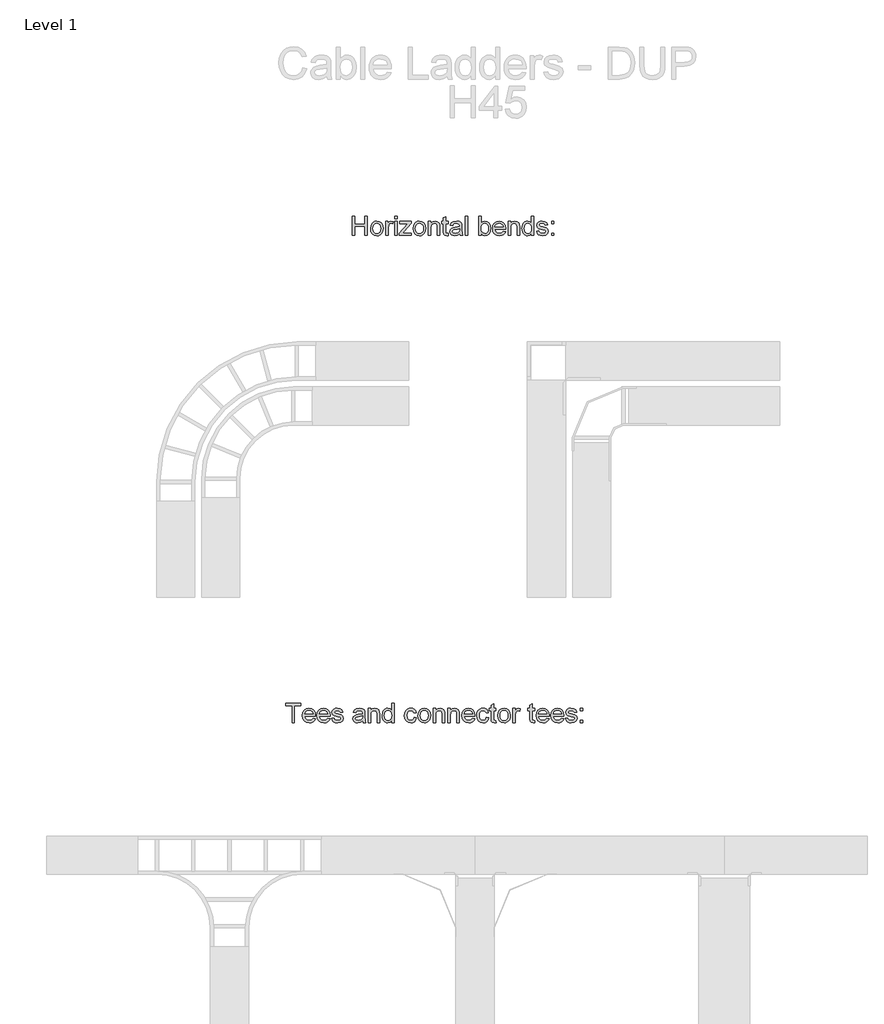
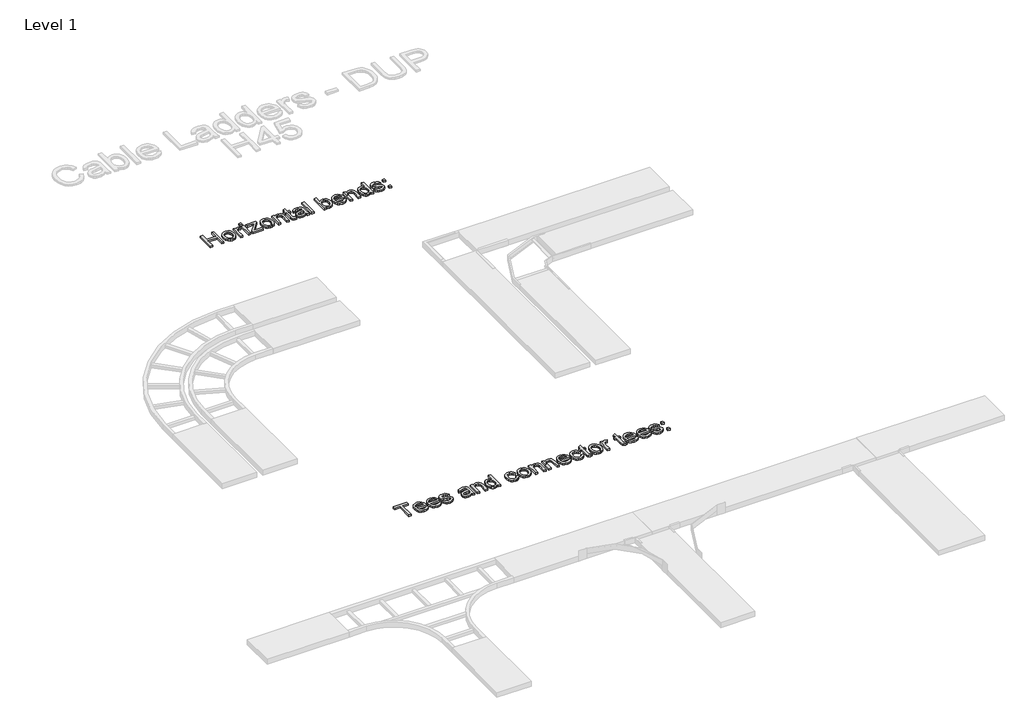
# One storey, part 60 of 106: 2 proxies.
"""IFC4 building model written with IfcOpenShell, lengths in millimetres."""

from ifc_helpers import new_model, si_unit, origin, origin_with_axes, place, context, project, spatial, polyline, outline, extrude, element, save

model = new_model("IFC4")

# Units and contexts
model_context = context("Model", 3, world=origin())
ifc_project = project(units=[si_unit("LENGTHUNIT", "METRE", prefix="MILLI")], contexts=[model_context])

# Site, building, storey
site = spatial("IfcSite", under=ifc_project)
building = spatial("IfcBuilding", under=site)
storey = spatial("IfcBuildingStorey", under=building, Name="Level 1", Elevation=0.0)

# Proxies
placement = place(None, origin())
element("IfcBuildingElementProxy", 1, Name="150mm Arial 2", ObjectType="150mm Arial 2", at=placement, inside=storey, context=model_context, shape_type="SweptSolid", body=[
    extrude(outline(polyline([(42265.8833156, 38674.2713912), (42265.8833156, 38824.9558564), (42284.7188737, 38824.9558564), (42284.7188737, 38763.7402924), (42364.7699959, 38763.7402924), (42364.7699959, 38824.9558564), (42383.605554, 38824.9558564), (42383.605554, 38674.2713912), (42364.7699959, 38674.2713912), (42364.7699959, 38744.9047343), (42284.7188737, 38744.9047343), (42284.7188737, 38674.2713912), (42265.8833156, 38674.2713912)])), origin_with_axes(), (0.0, 0.0, 1.0), 15.0),
    extrude(outline(polyline([(42409.5044465, 38729.6008433), (42413.5787396, 38756.281485), (42425.8016189, 38775.0342697), (42440.9031748, 38784.2221225), (42458.9845748, 38787.2847401), (42478.7720277, 38783.5553364), (42494.5771579, 38772.3671252), (42504.9376346, 38754.6030234), (42508.3911268, 38731.1459476), (42506.8644165, 38712.1172514), (42502.2842857, 38697.6318979), (42494.7840915, 38686.7839775), (42484.4971912, 38678.667581), (42472.2789104, 38673.6046051), (42458.9845748, 38671.9169464), (42438.9579987, 38675.6325546), (42423.1712626, 38686.779379), (42412.9211505, 38704.9159614), (42409.5044465, 38729.6008433)]), holes=[polyline([(42428.3400046, 38729.6376315), (42430.5197055, 38712.5908995), (42437.0588079, 38700.4461951), (42446.8996513, 38693.1759272), (42458.9845748, 38690.7525046), (42471.0143161, 38693.1897228), (42480.8367654, 38700.5013774), (42487.3758678, 38712.8070302), (42489.5555686, 38730.2262427), (42487.3620722, 38746.7763339), (42480.7815831, 38758.7554914), (42470.9453382, 38766.0257593), (42458.9845748, 38768.449182), (42446.8996513, 38766.0349564), (42437.0588079, 38758.7922796), (42430.5197055, 38746.6751664), (42428.3400046, 38729.6376315)])]), origin_with_axes(), (0.0, 0.0, 1.0), 15.0),
    extrude(outline(polyline([(42529.5811297, 38674.2713912), (42529.5811297, 38784.9302953), (42546.0622431, 38784.9302953), (42546.0622431, 38768.5595466), (42557.7608906, 38783.6427084), (42569.5331144, 38787.2847401), (42588.4422489, 38781.4722046), (42582.1514668, 38764.586421), (42568.907715, 38768.449182), (42558.2575312, 38764.7335738), (42551.4701084, 38754.4328779), (42548.4166879, 38732.4335346), (42548.4166879, 38674.2713912), (42529.5811297, 38674.2713912)])), origin_with_axes(), (0.0, 0.0, 1.0), 15.0),
    extrude(outline(polyline([(42600.2144728, 38806.1202983), (42600.2144728, 38824.9558564), (42619.0500309, 38824.9558564), (42619.0500309, 38806.1202983), (42600.2144728, 38806.1202983)])), origin_with_axes(), (0.0, 0.0, 1.0), 15.0),
    extrude(outline(polyline([(42600.2144728, 38674.2713912), (42600.2144728, 38784.9302953), (42619.0500309, 38784.9302953), (42619.0500309, 38674.2713912), (42600.2144728, 38674.2713912)])), origin_with_axes(), (0.0, 0.0, 1.0), 15.0),
    extrude(outline(polyline([(42635.5311443, 38674.2713912), (42635.5311443, 38692.0033034), (42700.5358929, 38766.0947372), (42681.2956645, 38766.0947372), (42640.2400339, 38766.0947372), (42640.2400339, 38784.9302953), (42727.3544903, 38784.9302953), (42727.3544903, 38768.9274285), (42669.7073817, 38703.186916), (42660.8782138, 38693.1069493), (42682.6568279, 38693.1069493), (42729.7089351, 38693.1069493), (42729.7089351, 38674.2713912), (42635.5311443, 38674.2713912)])), origin_with_axes(), (0.0, 0.0, 1.0), 15.0),
    extrude(outline(polyline([(42743.8356037, 38729.6008433), (42747.9098968, 38756.281485), (42760.1327761, 38775.0342697), (42775.234332, 38784.2221225), (42793.3157321, 38787.2847401), (42813.1031849, 38783.5553364), (42828.9083151, 38772.3671252), (42839.2687918, 38754.6030234), (42842.722284, 38731.1459476), (42841.1955737, 38712.1172514), (42836.6154429, 38697.6318979), (42829.1152487, 38686.7839775), (42818.8283484, 38678.667581), (42806.6100677, 38673.6046051), (42793.3157321, 38671.9169464), (42773.2891559, 38675.6325546), (42757.5024198, 38686.779379), (42747.2523077, 38704.9159614), (42743.8356037, 38729.6008433)]), holes=[polyline([(42762.6711619, 38729.6376315), (42764.8508627, 38712.5908995), (42771.3899651, 38700.4461951), (42781.2308085, 38693.1759272), (42793.3157321, 38690.7525046), (42805.3454733, 38693.1897228), (42815.1679226, 38700.5013774), (42821.707025, 38712.8070302), (42823.8867259, 38730.2262427), (42821.6932295, 38746.7763339), (42815.1127403, 38758.7554914), (42805.2764954, 38766.0257593), (42793.3157321, 38768.449182), (42781.2308085, 38766.0349564), (42771.3899651, 38758.7922796), (42764.8508627, 38746.6751664), (42762.6711619, 38729.6376315)])]), origin_with_axes(), (0.0, 0.0, 1.0), 15.0),
    extrude(outline(polyline([(42863.9122869, 38674.2713912), (42863.9122869, 38784.9302953), (42882.7478451, 38784.9302953), (42882.7478451, 38769.4792515), (42897.1504252, 38782.833368), (42916.8137178, 38787.2847401), (42934.6008123, 38783.6978907), (42946.7409182, 38774.2801116), (42952.3879068, 38760.4293545), (42953.3811882, 38742.2191957), (42953.3811882, 38674.2713912), (42934.54563, 38674.2713912), (42934.54563, 38739.6808099), (42932.3751262, 38756.3458643), (42924.7047866, 38765.1566381), (42911.7737345, 38768.449182), (42900.7418732, 38766.6005749), (42891.3378897, 38761.0547538), (42884.8953562, 38750.3401907), (42882.7478451, 38732.9853576), (42882.7478451, 38674.2713912), (42863.9122869, 38674.2713912)])), origin_with_axes(), (0.0, 0.0, 1.0), 15.0),
    extrude(outline(polyline([(43019.3056417, 38689.9799524), (43021.6600865, 38673.7195682), (43007.5702061, 38671.9169464), (42991.7880685, 38675.0439434), (42983.9153938, 38683.2477119), (42981.6345254, 38704.6216558), (42981.6345254, 38766.0947372), (42967.5078568, 38766.0947372), (42967.5078568, 38784.9302953), (42981.6345254, 38784.9302953), (42981.6345254, 38811.8224692), (43000.4700835, 38822.8957172), (43000.4700835, 38784.9302953), (43019.3056417, 38784.9302953), (43019.3056417, 38766.0947372), (43000.4700835, 38766.0947372), (43000.4700835, 38705.1734788), (43001.4633649, 38695.4613941), (43004.6823324, 38692.0216975), (43011.1018732, 38690.7525046), (43019.3056417, 38689.9799524)])), origin_with_axes(), (0.0, 0.0, 1.0), 15.0),
    extrude(outline(polyline([(43108.7745429, 38688.3980598), (43090.5092019, 38675.6325546), (43070.3308744, 38671.9169464), (43054.5901236, 38674.1518295), (43042.9788481, 38680.8564789), (43035.8189448, 38691.0376131), (43033.4323103, 38703.7019508), (43037.0375539, 38718.6011716), (43046.5105152, 38729.4169023), (43059.6990848, 38735.5973198), (43075.9962572, 38738.4300111), (43108.6641783, 38744.9047343), (43108.7745429, 38749.098589), (43107.4777589, 38757.5046926), (43103.5874068, 38763.0045284), (43094.8869976, 38767.0880186), (43082.7652859, 38768.449182), (43063.7089985, 38764.8255443), (43054.6223132, 38751.9680686), (43035.7867551, 38754.3225133), (43043.9353413, 38772.7166131), (43060.3428783, 38783.4955556), (43085.193307, 38787.2847401), (43108.0203848, 38783.9370139), (43120.9146488, 38775.5309104), (43126.6903961, 38762.747011), (43127.6101011, 38746.2658976), (43127.6101011, 38722.8318146), (43128.5665943, 38690.1087111), (43132.3189906, 38674.2713912), (43113.4834325, 38674.2713912), (43108.7745429, 38688.3980598)]), holes=[polyline([(43108.7745429, 38726.0691761), (43078.3874901, 38720.2934288), (43062.1822882, 38717.2400082), (43054.8430424, 38712.2736013), (43052.2678685, 38705.026326), (43057.8780689, 38694.8359947), (43074.3407882, 38690.7525046), (43093.3970755, 38695.259059), (43105.6843342, 38706.1667602), (43108.6641783, 38720.7348872), (43108.7745429, 38726.0691761)])]), origin_with_axes(), (0.0, 0.0, 1.0), 15.0),
    extrude(outline(polyline([(43153.5089935, 38674.2713912), (43153.5089935, 38824.9558564), (43172.3445517, 38824.9558564), (43172.3445517, 38674.2713912), (43153.5089935, 38674.2713912)])), origin_with_axes(), (0.0, 0.0, 1.0), 15.0),
    extrude(outline(polyline([(43278.2945663, 38674.2713912), (43259.4590082, 38674.2713912), (43259.4590082, 38824.9558564), (43278.2945663, 38824.9558564), (43278.2945663, 38769.0745813), (43291.4831358, 38782.7322004), (43307.8722787, 38787.2847401), (43326.7446251, 38783.1828559), (43341.3863285, 38771.6497553), (43350.3810433, 38753.715508), (43353.6367989, 38731.2563122), (43350.2660801, 38706.1115779), (43340.1539238, 38687.4047784), (43325.3144838, 38675.7889044), (43307.7619141, 38671.9169464), (43291.0140863, 38676.9109445), (43278.2945663, 38691.8929388), (43278.2945663, 38674.2713912)]), holes=[polyline([(43278.2945663, 38730.3733955), (43279.5821533, 38714.6648343), (43283.4449142, 38704.0330446), (43293.3133488, 38694.0726396), (43306.1432333, 38690.7525046), (43317.0141463, 38693.1989198), (43326.3031667, 38700.5381656), (43332.6767222, 38712.7242567), (43334.8012408, 38729.7112079), (43332.7640942, 38746.9464793), (43326.6526546, 38758.9946147), (43317.6533413, 38766.0855401), (43306.9525737, 38768.449182), (43296.0816608, 38766.0027667), (43286.7926404, 38758.6635209), (43280.4190848, 38746.698159), (43278.2945663, 38730.3733955)])]), origin_with_axes(), (0.0, 0.0, 1.0), 15.0),
    extrude(outline(polyline([(43452.30275, 38707.233618), (43470.7704262, 38704.8791732), (43464.1163606, 38690.9640367), (43453.4983665, 38680.5621733), (43439.1555672, 38674.0782531), (43421.327086, 38671.9169464), (43399.2265752, 38675.6463501), (43382.2212299, 38686.8345613), (43371.3779081, 38704.755013), (43367.7634675, 38728.6811383), (43371.4146963, 38753.4120054), (43382.3683827, 38771.9072727), (43399.1438017, 38783.4403733), (43420.2602282, 38787.2847401), (43440.7190657, 38783.4495703), (43457.0668219, 38771.9440609), (43467.7859835, 38753.4855818), (43471.3590374, 38728.7915029), (43471.2486728, 38723.7147313), (43386.5990257, 38723.7147313), (43389.8593799, 38709.6156539), (43397.4331504, 38699.2505787), (43408.3638442, 38692.8770231), (43421.694968, 38690.7525046), (43440.1626442, 38694.6888419), (43452.30275, 38707.233618)]), holes=[polyline([(43386.5990257, 38742.5502895), (43452.5234792, 38742.5502895), (43449.9758964, 38752.5014975), (43444.9818983, 38759.6200141), (43434.0006208, 38766.24189), (43420.1866518, 38768.449182), (43407.4901245, 38766.6879469), (43396.991692, 38761.4042417), (43389.693833, 38753.1682836), (43386.5990257, 38742.5502895)])]), origin_with_axes(), (0.0, 0.0, 1.0), 15.0),
    extrude(outline(polyline([(43490.1945955, 38674.2713912), (43490.1945955, 38784.9302953), (43509.0301537, 38784.9302953), (43509.0301537, 38769.4792515), (43523.4327338, 38782.833368), (43543.0960264, 38787.2847401), (43560.8831209, 38783.6978907), (43573.0232267, 38774.2801116), (43578.6702154, 38760.4293545), (43579.6634968, 38742.2191957), (43579.6634968, 38674.2713912), (43560.8279386, 38674.2713912), (43560.8279386, 38739.6808099), (43558.6574348, 38756.3458643), (43550.9870952, 38765.1566381), (43538.0560431, 38768.449182), (43527.0241818, 38766.6005749), (43517.6201983, 38761.0547538), (43511.1776648, 38750.3401907), (43509.0301537, 38732.9853576), (43509.0301537, 38674.2713912), (43490.1945955, 38674.2713912)])), origin_with_axes(), (0.0, 0.0, 1.0), 15.0),
    extrude(outline(polyline([(43673.8412875, 38674.2713912), (43673.8412875, 38692.0400916), (43661.3792849, 38676.9477327), (43644.1532105, 38671.9169464), (43631.9763165, 38673.7379623), (43620.829492, 38679.2010099), (43611.3933188, 38687.9244117), (43604.3483786, 38699.5264902), (43599.9613858, 38713.5381956), (43598.4990549, 38729.4904787), (43603.8885261, 38759.4728613), (43610.6207666, 38771.3646468), (43620.0385457, 38780.1110412), (43631.429092, 38785.4913154), (43644.0796341, 38787.2847401), (43661.4436643, 38782.1527863), (43673.8412875, 38768.8170639), (43673.8412875, 38824.9558564), (43692.6768457, 38824.9558564), (43692.6768457, 38674.2713912), (43673.8412875, 38674.2713912)]), holes=[polyline([(43617.3346131, 38729.5640551), (43619.4591316, 38712.5265202), (43625.8326871, 38700.4094069), (43635.0941164, 38693.1667302), (43645.8822559, 38690.7525046), (43656.6657969, 38693.0563656), (43665.6927013, 38699.9679485), (43671.804141, 38711.6160122), (43673.8412875, 38728.1293153), (43671.7673528, 38746.1831242), (43665.5455485, 38758.7003091), (43656.2887178, 38766.0119637), (43645.1097037, 38768.449182), (43634.2111996, 38766.1085328), (43625.2808642, 38759.0865852), (43619.3211758, 38747.0246543), (43617.3346131, 38729.5640551)])]), origin_with_axes(), (0.0, 0.0, 1.0), 15.0),
    extrude(outline(polyline([(43713.8668486, 38707.233618), (43732.7024067, 38709.5880627), (43735.6730539, 38701.531447), (43741.42121, 38695.6085469), (43761.3972024, 38690.7525046), (43780.6006425, 38695.2038767), (43786.8546364, 38705.6517254), (43785.2819409, 38710.4525854), (43780.5638543, 38714.1130113), (43761.1764732, 38719.4840884), (43732.8127713, 38728.6995324), (43720.4335422, 38739.4600807), (43716.2212934, 38754.6536071), (43719.6058077, 38768.6883052), (43728.8396458, 38779.4120654), (43740.8142047, 38784.9854776), (43757.0194066, 38787.2847401), (43779.9384549, 38783.5875261), (43794.5065819, 38773.5811358), (43800.9813051, 38756.6769581), (43782.1457469, 38754.3225133), (43775.0640185, 38764.7151797), (43758.4909346, 38768.449182), (43740.4647168, 38764.8807266), (43735.0568515, 38756.5665935), (43737.3009317, 38751.0851518), (43744.3274778, 38746.9280852), (43760.5510738, 38742.9181715), (43788.1974057, 38734.0522154), (43801.0364873, 38724.0090369), (43805.6901946, 38707.6382881), (43800.227147, 38689.6120704), (43784.4634035, 38676.5338655), (43761.139685, 38671.9169464), (43742.147777, 38674.1426325), (43728.2878228, 38680.8196907), (43719.0355906, 38691.8745447), (43713.8668486, 38707.233618)])), origin_with_axes(), (0.0, 0.0, 1.0), 15.0),
    extrude(outline(polyline([(43831.589087, 38766.0947372), (43831.589087, 38784.9302953), (43850.4246452, 38784.9302953), (43850.4246452, 38766.0947372), (43831.589087, 38766.0947372)])), origin_with_axes(), (0.0, 0.0, 1.0), 15.0),
    extrude(outline(polyline([(43831.589087, 38674.2713912), (43831.589087, 38693.1069493), (43850.4246452, 38693.1069493), (43850.4246452, 38674.2713912), (43831.589087, 38674.2713912)])), origin_with_axes(), (0.0, 0.0, 1.0), 15.0),
])
element("IfcBuildingElementProxy", 2, Name="150mm Arial 2", ObjectType="150mm Arial 2", at=placement, inside=storey, context=model_context, shape_type="SweptSolid", body=[
    extrude(outline(polyline([(41793.3276619, 34847.8476348), (41793.3276619, 34979.6965419), (41743.8843218, 34979.6965419), (41743.8843218, 34998.5321), (41861.6065602, 34998.5321), (41861.6065602, 34979.6965419), (41812.1632201, 34979.6965419), (41812.1632201, 34847.8476348), (41793.3276619, 34847.8476348)])), origin_with_axes(), (0.0, 0.0, 1.0), 15.0),
    extrude(outline(polyline([(41957.9180666, 34880.8098615), (41976.3857427, 34878.4554168), (41969.7316771, 34864.5402803), (41959.1136831, 34854.1384169), (41944.7708838, 34847.6544967), (41926.9424026, 34845.49319), (41904.8418917, 34849.2225937), (41887.8365465, 34860.4108049), (41876.9932247, 34878.3312566), (41873.3787841, 34902.2573819), (41877.0300129, 34926.988249), (41887.9836993, 34945.4835163), (41904.7591183, 34957.0166168), (41925.8755448, 34960.8609837), (41946.3343822, 34957.0258139), (41962.6821384, 34945.5203045), (41973.4013, 34927.0618254), (41976.9743539, 34902.3677465), (41976.8639893, 34897.2909749), (41892.2143422, 34897.2909749), (41895.4746964, 34883.1918975), (41903.048467, 34872.8268223), (41913.9791608, 34866.4532667), (41927.3102846, 34864.3287482), (41945.7779607, 34868.2650855), (41957.9180666, 34880.8098615)]), holes=[polyline([(41892.2143422, 34916.1265331), (41958.1387958, 34916.1265331), (41955.5912129, 34926.0777411), (41950.5972149, 34933.1962577), (41939.6159373, 34939.8181336), (41925.8019684, 34942.0254255), (41913.105441, 34940.2641905), (41902.6070086, 34934.9804853), (41895.3091495, 34926.7445272), (41892.2143422, 34916.1265331)])]), origin_with_axes(), (0.0, 0.0, 1.0), 15.0),
    extrude(outline(polyline([(42073.2858603, 34880.8098615), (42091.7535364, 34878.4554168), (42085.0994708, 34864.5402803), (42074.4814767, 34854.1384169), (42060.1386775, 34847.6544967), (42042.3101963, 34845.49319), (42020.2096854, 34849.2225937), (42003.2043402, 34860.4108049), (41992.3610184, 34878.3312566), (41988.7465778, 34902.2573819), (41992.3978066, 34926.988249), (42003.351493, 34945.4835163), (42020.126912, 34957.0166168), (42041.2433385, 34960.8609837), (42061.7021759, 34957.0258139), (42078.0499321, 34945.5203045), (42088.7690937, 34927.0618254), (42092.3421476, 34902.3677465), (42092.231783, 34897.2909749), (42007.5821359, 34897.2909749), (42010.8424901, 34883.1918975), (42018.4162607, 34872.8268223), (42029.3469545, 34866.4532667), (42042.6780783, 34864.3287482), (42061.1457544, 34868.2650855), (42073.2858603, 34880.8098615)]), holes=[polyline([(42007.5821359, 34916.1265331), (42073.5065895, 34916.1265331), (42070.9590066, 34926.0777411), (42065.9650086, 34933.1962577), (42054.983731, 34939.8181336), (42041.1697621, 34942.0254255), (42028.4732347, 34940.2641905), (42017.9748023, 34934.9804853), (42010.6769432, 34926.7445272), (42007.5821359, 34916.1265331)])]), origin_with_axes(), (0.0, 0.0, 1.0), 15.0),
    extrude(outline(polyline([(42104.1143715, 34880.8098615), (42122.9499296, 34883.1643063), (42125.9205767, 34875.1076906), (42131.6687329, 34869.1847905), (42151.6447252, 34864.3287482), (42170.8481654, 34868.7801203), (42177.1021593, 34879.227969), (42175.5294638, 34884.028829), (42170.8113772, 34887.6892549), (42151.423996, 34893.060332), (42123.0602942, 34902.275776), (42110.6810651, 34913.0363243), (42106.4688162, 34928.2298507), (42109.8533306, 34942.2645488), (42119.0871687, 34952.988309), (42131.0617276, 34958.5617212), (42147.2669295, 34960.8609837), (42170.1859778, 34957.1637696), (42184.7541048, 34947.1573794), (42191.2288279, 34930.2532017), (42172.3932698, 34927.8987569), (42165.3115413, 34938.2914233), (42148.7384575, 34942.0254255), (42130.7122397, 34938.4569702), (42125.3043744, 34930.1428371), (42127.5484545, 34924.6613954), (42134.5750007, 34920.5043288), (42150.7985966, 34916.4944151), (42178.4449286, 34907.628459), (42191.2840102, 34897.5852805), (42195.9377174, 34881.2145317), (42190.4746698, 34863.188314), (42174.7109263, 34850.1101091), (42151.3872078, 34845.49319), (42132.3952998, 34847.7188761), (42118.5353457, 34854.3959343), (42109.2831135, 34865.4507882), (42104.1143715, 34880.8098615)])), origin_with_axes(), (0.0, 0.0, 1.0), 15.0),
    extrude(outline(polyline([(42346.6221827, 34861.9743034), (42328.3568416, 34849.2087982), (42308.1785142, 34845.49319), (42292.4377633, 34847.7280731), (42280.8264878, 34854.4327225), (42273.6665845, 34864.6138567), (42271.2799501, 34877.2781944), (42274.8851936, 34892.1774152), (42284.358155, 34902.9931459), (42297.5467245, 34909.1735634), (42313.8438969, 34912.0062547), (42346.5118181, 34918.4809779), (42346.6221827, 34922.6748326), (42345.3253986, 34931.0809362), (42341.4350465, 34936.580772), (42332.7346374, 34940.6642622), (42320.6129256, 34942.0254255), (42301.5566383, 34938.4017879), (42292.469953, 34925.5443122), (42273.6343948, 34927.8987569), (42281.782981, 34946.2928567), (42298.190518, 34957.0717991), (42323.0409468, 34960.8609837), (42345.8680246, 34957.5132575), (42358.7622885, 34949.107154), (42364.5380358, 34936.3232546), (42365.4577408, 34919.8421412), (42365.4577408, 34896.4080581), (42366.414234, 34863.6849547), (42370.1666304, 34847.8476348), (42351.3310722, 34847.8476348), (42346.6221827, 34861.9743034)]), holes=[polyline([(42346.6221827, 34899.6454197), (42316.2351299, 34893.8696724), (42300.029928, 34890.8162518), (42292.6906822, 34885.8498449), (42290.1155082, 34878.6025696), (42295.7257086, 34868.4122383), (42312.1884279, 34864.3287482), (42331.2447153, 34868.8353026), (42343.5319739, 34879.7430038), (42346.5118181, 34894.3111308), (42346.6221827, 34899.6454197)])]), origin_with_axes(), (0.0, 0.0, 1.0), 15.0),
    extrude(outline(polyline([(42391.3566333, 34847.8476348), (42391.3566333, 34958.5065389), (42410.1921914, 34958.5065389), (42410.1921914, 34943.0554951), (42424.5947715, 34956.4096116), (42444.2580642, 34960.8609837), (42462.0451587, 34957.2741342), (42474.1852645, 34947.8563552), (42479.8322531, 34934.0055981), (42480.8255345, 34915.7954393), (42480.8255345, 34847.8476348), (42461.9899764, 34847.8476348), (42461.9899764, 34913.2570535), (42459.8194726, 34929.9221079), (42452.149133, 34938.7328817), (42439.2180809, 34942.0254255), (42428.1862195, 34940.1768185), (42418.782236, 34934.6309974), (42412.3397026, 34923.9164343), (42410.1921914, 34906.5616012), (42410.1921914, 34847.8476348), (42391.3566333, 34847.8476348)])), origin_with_axes(), (0.0, 0.0, 1.0), 15.0),
    extrude(outline(polyline([(42575.0033253, 34847.8476348), (42575.0033253, 34865.6163351), (42562.5413227, 34850.5239763), (42545.3152483, 34845.49319), (42533.1383542, 34847.3142059), (42521.9915298, 34852.7772535), (42512.5553566, 34861.5006553), (42505.5104164, 34873.1027337), (42501.1234236, 34887.1144392), (42499.6610927, 34903.0667223), (42505.0505639, 34933.0491049), (42511.7828044, 34944.9408904), (42521.2005835, 34953.6872848), (42532.5911298, 34959.067559), (42545.2416719, 34960.8609837), (42562.605702, 34955.7290299), (42575.0033253, 34942.3933075), (42575.0033253, 34998.5321), (42593.8388834, 34998.5321), (42593.8388834, 34847.8476348), (42575.0033253, 34847.8476348)]), holes=[polyline([(42518.4966508, 34903.1402987), (42520.6211693, 34886.1027638), (42526.9947249, 34873.9856505), (42536.2561541, 34866.7429738), (42547.0442936, 34864.3287482), (42557.8278346, 34866.6326092), (42566.8547391, 34873.5441921), (42572.9661787, 34885.1922558), (42575.0033253, 34901.7055589), (42572.9293905, 34919.7593678), (42566.7075863, 34932.2765527), (42557.4507556, 34939.5882073), (42546.2717415, 34942.0254255), (42535.3732373, 34939.6847764), (42526.4429019, 34932.6628288), (42520.4832136, 34920.6008979), (42518.4966508, 34903.1402987)])]), origin_with_axes(), (0.0, 0.0, 1.0), 15.0),
    extrude(outline(polyline([(42751.586683, 34887.8731959), (42770.4222411, 34885.5187511), (42765.1707256, 34868.7663247), (42755.3022911, 34856.1065856), (42741.7458396, 34848.1465389), (42725.4302731, 34845.49319), (42705.3944999, 34849.1950026), (42689.7273255, 34860.3004403), (42679.6151691, 34878.3220596), (42676.2444503, 34902.7724167), (42677.6837887, 34919.5340401), (42682.0018036, 34934.0607803), (42689.267473, 34945.7916175), (42699.5497747, 34954.1655314), (42711.850829, 34959.1871206), (42725.1727557, 34960.8609837), (42741.0882505, 34958.5617212), (42753.812369, 34951.6639338), (42762.940441, 34940.5355035), (42768.0677963, 34925.5443122), (42749.2322382, 34923.1898674), (42740.4950408, 34937.2981419), (42725.3199085, 34942.0254255), (42713.147613, 34939.6985719), (42703.4861121, 34932.7180111), (42697.1815344, 34920.7066639), (42695.0800085, 34903.2874515), (42697.1355492, 34885.6337142), (42703.3021711, 34873.5809803), (42712.788928, 34866.6418062), (42724.8048737, 34864.3287482), (42734.5583451, 34865.772685), (42742.55518, 34870.1044955), (42748.372314, 34877.4345442), (42751.586683, 34887.8731959)])), origin_with_axes(), (0.0, 0.0, 1.0), 15.0),
    extrude(outline(polyline([(42782.194465, 34903.1770869), (42786.2687581, 34929.8577286), (42798.4916373, 34948.6105133), (42813.5931932, 34957.7983661), (42831.6745933, 34960.8609837), (42851.4620461, 34957.13158), (42867.2671763, 34945.9433688), (42877.627653, 34928.179267), (42881.0811453, 34904.7221912), (42879.554435, 34885.693495), (42874.9743041, 34871.2081415), (42867.47411, 34860.3602211), (42857.1872097, 34852.2438246), (42844.9689289, 34847.1808487), (42831.6745933, 34845.49319), (42811.6480172, 34849.2087982), (42795.8612811, 34860.3556226), (42785.611169, 34878.492205), (42782.194465, 34903.1770869)]), holes=[polyline([(42801.0300231, 34903.2138751), (42803.2097239, 34886.1671431), (42809.7488264, 34874.0224387), (42819.5896698, 34866.7521708), (42831.6745933, 34864.3287482), (42843.7043346, 34866.7659664), (42853.5267838, 34874.077621), (42860.0658863, 34886.3832738), (42862.2455871, 34903.8024862), (42860.0520907, 34920.3525775), (42853.4716015, 34932.331735), (42843.6353567, 34939.6020029), (42831.6745933, 34942.0254255), (42819.5896698, 34939.6112), (42809.7488264, 34932.3685232), (42803.2097239, 34920.25141), (42801.0300231, 34903.2138751)])]), origin_with_axes(), (0.0, 0.0, 1.0), 15.0),
    extrude(outline(polyline([(42902.2711482, 34847.8476348), (42902.2711482, 34958.5065389), (42921.1067063, 34958.5065389), (42921.1067063, 34943.0554951), (42935.5092865, 34956.4096116), (42955.1725791, 34960.8609837), (42972.9596736, 34957.2741342), (42985.0997794, 34947.8563552), (42990.746768, 34934.0055981), (42991.7400494, 34915.7954393), (42991.7400494, 34847.8476348), (42972.9044913, 34847.8476348), (42972.9044913, 34913.2570535), (42970.7339875, 34929.9221079), (42963.0636479, 34938.7328817), (42950.1325958, 34942.0254255), (42939.1007344, 34940.1768185), (42929.6967509, 34934.6309974), (42923.2542175, 34923.9164343), (42921.1067063, 34906.5616012), (42921.1067063, 34847.8476348), (42902.2711482, 34847.8476348)])), origin_with_axes(), (0.0, 0.0, 1.0), 15.0),
    extrude(outline(polyline([(43017.6389419, 34847.8476348), (43017.6389419, 34958.5065389), (43036.4745, 34958.5065389), (43036.4745, 34943.0554951), (43050.8770801, 34956.4096116), (43070.5403728, 34960.8609837), (43088.3274672, 34957.2741342), (43100.4675731, 34947.8563552), (43106.1145617, 34934.0055981), (43107.1078431, 34915.7954393), (43107.1078431, 34847.8476348), (43088.2722849, 34847.8476348), (43088.2722849, 34913.2570535), (43086.1017812, 34929.9221079), (43078.4314416, 34938.7328817), (43065.5003894, 34942.0254255), (43054.4685281, 34940.1768185), (43045.0645446, 34934.6309974), (43038.6220112, 34923.9164343), (43036.4745, 34906.5616012), (43036.4745, 34847.8476348), (43017.6389419, 34847.8476348)])), origin_with_axes(), (0.0, 0.0, 1.0), 15.0),
    extrude(outline(polyline([(43210.4826837, 34880.8098615), (43228.9503599, 34878.4554168), (43222.2962943, 34864.5402803), (43211.6783002, 34854.1384169), (43197.3355009, 34847.6544967), (43179.5070198, 34845.49319), (43157.4065089, 34849.2225937), (43140.4011637, 34860.4108049), (43129.5578419, 34878.3312566), (43125.9434013, 34902.2573819), (43129.5946301, 34926.988249), (43140.5483165, 34945.4835163), (43157.3237354, 34957.0166168), (43178.440162, 34960.8609837), (43198.8989994, 34957.0258139), (43215.2467556, 34945.5203045), (43225.9659172, 34927.0618254), (43229.5389711, 34902.3677465), (43229.4286065, 34897.2909749), (43144.7789594, 34897.2909749), (43148.0393136, 34883.1918975), (43155.6130842, 34872.8268223), (43166.5437779, 34866.4532667), (43179.8749017, 34864.3287482), (43198.3425779, 34868.2650855), (43210.4826837, 34880.8098615)]), holes=[polyline([(43144.7789594, 34916.1265331), (43210.7034129, 34916.1265331), (43208.1558301, 34926.0777411), (43203.161832, 34933.1962577), (43192.1805545, 34939.8181336), (43178.3665856, 34942.0254255), (43165.6700582, 34940.2641905), (43155.1716258, 34934.9804853), (43147.8737667, 34926.7445272), (43144.7789594, 34916.1265331)])]), origin_with_axes(), (0.0, 0.0, 1.0), 15.0),
    extrude(outline(polyline([(43319.0078723, 34887.8731959), (43337.8434305, 34885.5187511), (43332.591915, 34868.7663247), (43322.7234805, 34856.1065856), (43309.167029, 34848.1465389), (43292.8514625, 34845.49319), (43272.8156893, 34849.1950026), (43257.1485148, 34860.3004403), (43247.0363585, 34878.3220596), (43243.6656397, 34902.7724167), (43245.104978, 34919.5340401), (43249.4229929, 34934.0607803), (43256.6886623, 34945.7916175), (43266.9709641, 34954.1655314), (43279.2720183, 34959.1871206), (43292.5939451, 34960.8609837), (43308.5094399, 34958.5617212), (43321.2335584, 34951.6639338), (43330.3616304, 34940.5355035), (43335.4889857, 34925.5443122), (43316.6534276, 34923.1898674), (43307.9162302, 34937.2981419), (43292.7410979, 34942.0254255), (43280.5688024, 34939.6985719), (43270.9073015, 34932.7180111), (43264.6027238, 34920.7066639), (43262.5011979, 34903.2874515), (43264.5567385, 34885.6337142), (43270.7233605, 34873.5809803), (43280.2101174, 34866.6418062), (43292.2260631, 34864.3287482), (43301.9795345, 34865.772685), (43309.9763693, 34870.1044955), (43315.7935034, 34877.4345442), (43319.0078723, 34887.8731959)])), origin_with_axes(), (0.0, 0.0, 1.0), 15.0),
    extrude(outline(polyline([(43394.3501049, 34863.556196), (43396.7045497, 34847.2958118), (43382.6146693, 34845.49319), (43366.8325317, 34848.620187), (43358.959857, 34856.8239555), (43356.6789886, 34878.1978994), (43356.6789886, 34939.6709808), (43342.55232, 34939.6709808), (43342.55232, 34958.5065389), (43356.6789886, 34958.5065389), (43356.6789886, 34985.3987128), (43375.5145468, 34996.4719608), (43375.5145468, 34958.5065389), (43394.3501049, 34958.5065389), (43394.3501049, 34939.6709808), (43375.5145468, 34939.6709808), (43375.5145468, 34878.7497224), (43376.5078282, 34869.0376377), (43379.7267956, 34865.597941), (43386.1463364, 34864.3287482), (43394.3501049, 34863.556196)])), origin_with_axes(), (0.0, 0.0, 1.0), 15.0),
    extrude(outline(polyline([(43408.4767735, 34903.1770869), (43412.5510666, 34929.8577286), (43424.7739459, 34948.6105133), (43439.8755018, 34957.7983661), (43457.9569019, 34960.8609837), (43477.7443547, 34957.13158), (43493.5494849, 34945.9433688), (43503.9099616, 34928.179267), (43507.3634539, 34904.7221912), (43505.8367436, 34885.693495), (43501.2566127, 34871.2081415), (43493.7564186, 34860.3602211), (43483.4695183, 34852.2438246), (43471.2512375, 34847.1808487), (43457.9569019, 34845.49319), (43437.9303258, 34849.2087982), (43422.1435897, 34860.3556226), (43411.8934776, 34878.492205), (43408.4767735, 34903.1770869)]), holes=[polyline([(43427.3123317, 34903.2138751), (43429.4920325, 34886.1671431), (43436.031135, 34874.0224387), (43445.8719784, 34866.7521708), (43457.9569019, 34864.3287482), (43469.9866431, 34866.7659664), (43479.8090924, 34874.077621), (43486.3481949, 34886.3832738), (43488.5278957, 34903.8024862), (43486.3343993, 34920.3525775), (43479.7539101, 34932.331735), (43469.9176653, 34939.6020029), (43457.9569019, 34942.0254255), (43445.8719784, 34939.6112), (43436.031135, 34932.3685232), (43429.4920325, 34920.25141), (43427.3123317, 34903.2138751)])]), origin_with_axes(), (0.0, 0.0, 1.0), 15.0),
    extrude(outline(polyline([(43528.5534568, 34847.8476348), (43528.5534568, 34958.5065389), (43545.0345702, 34958.5065389), (43545.0345702, 34942.1357901), (43556.7332176, 34957.2189519), (43568.5054415, 34960.8609837), (43587.414576, 34955.0484482), (43581.1237939, 34938.1626646), (43567.8800421, 34942.0254255), (43557.2298583, 34938.3098174), (43550.4424355, 34928.0091215), (43547.3890149, 34906.0097782), (43547.3890149, 34847.8476348), (43528.5534568, 34847.8476348)])), origin_with_axes(), (0.0, 0.0, 1.0), 15.0),
    extrude(outline(polyline([(43698.0734802, 34863.556196), (43700.4279249, 34847.2958118), (43686.3380445, 34845.49319), (43670.5559069, 34848.620187), (43662.6832322, 34856.8239555), (43660.4023638, 34878.1978994), (43660.4023638, 34939.6709808), (43646.2756952, 34939.6709808), (43646.2756952, 34958.5065389), (43660.4023638, 34958.5065389), (43660.4023638, 34985.3987128), (43679.237922, 34996.4719608), (43679.237922, 34958.5065389), (43698.0734802, 34958.5065389), (43698.0734802, 34939.6709808), (43679.237922, 34939.6709808), (43679.237922, 34878.7497224), (43680.2312034, 34869.0376377), (43683.4501708, 34865.597941), (43689.8697117, 34864.3287482), (43698.0734802, 34863.556196)])), origin_with_axes(), (0.0, 0.0, 1.0), 15.0),
    extrude(outline(polyline([(43794.3849865, 34880.8098615), (43812.8526626, 34878.4554168), (43806.1985971, 34864.5402803), (43795.580603, 34854.1384169), (43781.2378037, 34847.6544967), (43763.4093225, 34845.49319), (43741.3088116, 34849.2225937), (43724.3034664, 34860.4108049), (43713.4601446, 34878.3312566), (43709.845704, 34902.2573819), (43713.4969328, 34926.988249), (43724.4506192, 34945.4835163), (43741.2260382, 34957.0166168), (43762.3424647, 34960.8609837), (43782.8013022, 34957.0258139), (43799.1490583, 34945.5203045), (43809.86822, 34927.0618254), (43813.4412738, 34902.3677465), (43813.3309092, 34897.2909749), (43728.6812622, 34897.2909749), (43731.9416163, 34883.1918975), (43739.5153869, 34872.8268223), (43750.4460807, 34866.4532667), (43763.7772045, 34864.3287482), (43782.2448806, 34868.2650855), (43794.3849865, 34880.8098615)]), holes=[polyline([(43728.6812622, 34916.1265331), (43794.6057157, 34916.1265331), (43792.0581329, 34926.0777411), (43787.0641348, 34933.1962577), (43776.0828572, 34939.8181336), (43762.2688883, 34942.0254255), (43749.572361, 34940.2641905), (43739.0739285, 34934.9804853), (43731.7760694, 34926.7445272), (43728.6812622, 34916.1265331)])]), origin_with_axes(), (0.0, 0.0, 1.0), 15.0),
    extrude(outline(polyline([(43909.7527802, 34880.8098615), (43928.2204563, 34878.4554168), (43921.5663907, 34864.5402803), (43910.9483967, 34854.1384169), (43896.6055974, 34847.6544967), (43878.7771162, 34845.49319), (43856.6766053, 34849.2225937), (43839.6712601, 34860.4108049), (43828.8279383, 34878.3312566), (43825.2134977, 34902.2573819), (43828.8647265, 34926.988249), (43839.8184129, 34945.4835163), (43856.5938319, 34957.0166168), (43877.7102584, 34960.8609837), (43898.1690959, 34957.0258139), (43914.516852, 34945.5203045), (43925.2360136, 34927.0618254), (43928.8090675, 34902.3677465), (43928.6987029, 34897.2909749), (43844.0490558, 34897.2909749), (43847.30941, 34883.1918975), (43854.8831806, 34872.8268223), (43865.8138744, 34866.4532667), (43879.1449982, 34864.3287482), (43897.6126743, 34868.2650855), (43909.7527802, 34880.8098615)]), holes=[polyline([(43844.0490558, 34916.1265331), (43909.9735094, 34916.1265331), (43907.4259266, 34926.0777411), (43902.4319285, 34933.1962577), (43891.4506509, 34939.8181336), (43877.636682, 34942.0254255), (43864.9401546, 34940.2641905), (43854.4417222, 34934.9804853), (43847.1438631, 34926.7445272), (43844.0490558, 34916.1265331)])]), origin_with_axes(), (0.0, 0.0, 1.0), 15.0),
    extrude(outline(polyline([(43940.5812914, 34880.8098615), (43959.4168495, 34883.1643063), (43962.3874966, 34875.1076906), (43968.1356528, 34869.1847905), (43988.1116452, 34864.3287482), (44007.3150853, 34868.7801203), (44013.5690792, 34879.227969), (44011.9963837, 34884.028829), (44007.2782971, 34887.6892549), (43987.890916, 34893.060332), (43959.5272141, 34902.275776), (43947.147985, 34913.0363243), (43942.9357361, 34928.2298507), (43946.3202505, 34942.2645488), (43955.5540886, 34952.988309), (43967.5286475, 34958.5617212), (43983.7338494, 34960.8609837), (44006.6528977, 34957.1637696), (44021.2210247, 34947.1573794), (44027.6957478, 34930.2532017), (44008.8601897, 34927.8987569), (44001.7784613, 34938.2914233), (43985.2053774, 34942.0254255), (43967.1791596, 34938.4569702), (43961.7712943, 34930.1428371), (43964.0153745, 34924.6613954), (43971.0419206, 34920.5043288), (43987.2655166, 34916.4944151), (44014.9118485, 34907.628459), (44027.7509301, 34897.5852805), (44032.4046374, 34881.2145317), (44026.9415897, 34863.188314), (44011.1778462, 34850.1101091), (43987.8541278, 34845.49319), (43968.8622198, 34847.7188761), (43955.0022656, 34854.3959343), (43945.7500334, 34865.4507882), (43940.5812914, 34880.8098615)])), origin_with_axes(), (0.0, 0.0, 1.0), 15.0),
    extrude(outline(polyline([(44058.3035298, 34939.6709808), (44058.3035298, 34958.5065389), (44077.139088, 34958.5065389), (44077.139088, 34939.6709808), (44058.3035298, 34939.6709808)])), origin_with_axes(), (0.0, 0.0, 1.0), 15.0),
    extrude(outline(polyline([(44058.3035298, 34847.8476348), (44058.3035298, 34866.6831929), (44077.139088, 34866.6831929), (44077.139088, 34847.8476348), (44058.3035298, 34847.8476348)])), origin_with_axes(), (0.0, 0.0, 1.0), 15.0),
])

save(model, "model.ifc")
